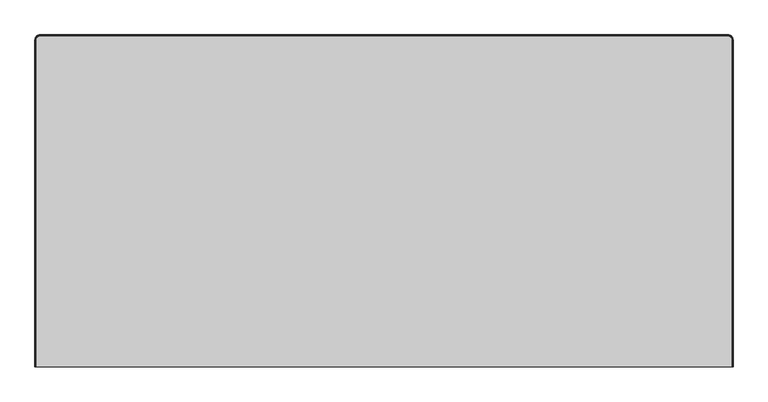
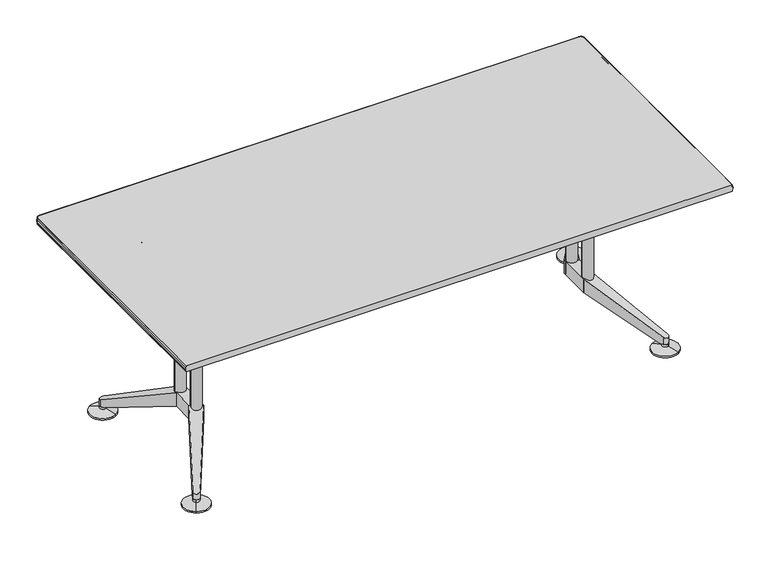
"""IFC4 building model written with IfcOpenShell, lengths in millimetres: furniture geometry, Furniture_Wilkhahn_620-24_Logon Table-Rectangle : Logon 620/23_2100L x 2000W x 730H."""

from ifc_helpers import new_model, si_unit, point, frame, frame_2d, origin, place, context, project, spatial, polyline, circle_curve, ellipse_curve, trimmed, segment, composite_curve, outline, extrude, source, transform, mapped, element, save
from ifc_brep_helpers import plane_surface, cylinder_surface, revolved_surface, advanced_brep


def furniture_cdf04b7c(model_context):
    return source(origin(), model_context, "Body", "SolidModel", [
        extrude(outline(polyline([(771.6506351, 341.4511544), (771.6506351, 260.4511544), (728.3493649, 235.4511544), (728.3493649, 366.4511544), (771.6506351, 341.4511544)])), frame((0.0, 0.0, 140.0), z_axis=(0.0, 0.0, 1.0), x_axis=(1.0, 0.0, 0.0)), (0.0, 0.0, 1.0), 55.0),
        advanced_brep(
        [(728.3493649, 366.4511544, 195.0), (771.6506351, 341.4511544, 195.0), (909.8189769, 605.8365053, 56.1717347), (905.0, 622.4190296, 50.6048844), (888.2296242, 618.3011239, 56.1717347), (903.7925387, 594.3049058, 27.0), (881.2561852, 607.3162756, 27.0), (888.2296242, 618.3011239, 27.0), (905.0, 622.4190296, 27.0), (909.8189769, 605.8365053, 27.0), (771.6506351, 341.4511544, 140.0), (728.3493649, 366.4511544, 140.0)],
        [
            (0, 1),
            (1, 2),
            (2, 3, ellipse_curve(frame((898.762181, 611.6148102, 56.4159205), z_axis=(0.21111665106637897, 0.36566476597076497, 0.9064871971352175), x_axis=(0.4532435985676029, 0.7850409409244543, -0.42223330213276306)), 13.7626191, 12.475638)),
            (3, 4, ellipse_curve(frame((898.762181, 611.6148102, 56.4159205), z_axis=(0.21111665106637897, 0.36566476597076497, 0.9064871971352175), x_axis=(0.4532435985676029, 0.7850409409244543, -0.42223330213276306)), 13.7626191, 12.475638)),
            (4, 0),
            (5, 6),
            (6, 7),
            (7, 8, circle_curve(frame((898.762181, 611.6148102, 27.0), z_axis=(0.0, 0.0, -1.0), x_axis=(0.8660254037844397, -0.4999999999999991, 0.0)), 12.475638)),
            (8, 9, circle_curve(frame((898.762181, 611.6148102, 27.0), z_axis=(0.0, 0.0, -1.0), x_axis=(0.8660254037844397, -0.4999999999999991, 0.0)), 12.475638)),
            (9, 5),
            (10, 11),
            (11, 6),
            (5, 10),
            (0, 11),
            (10, 1),
            (9, 2),
            (4, 7),
        ],
        [
            plane_surface(frame((926.6506351, 609.9190296, 50.6048844), z_axis=(0.21111665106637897, 0.36566476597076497, 0.9064871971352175), x_axis=(-0.8660254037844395, 0.49999999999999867, 0.0))),
            plane_surface(frame((914.1749971, 588.3105907, 27.0), z_axis=(0.0, 0.0, -1.0), x_axis=(-0.8660254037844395, 0.49999999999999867, 0.0))),
            plane_surface(frame((771.6506351, 341.4511544, 140.0), z_axis=(-0.18426133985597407, -0.3191500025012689, -0.9296187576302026), x_axis=(-0.866025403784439, 0.4999999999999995, 0.0))),
            plane_surface(frame((771.6506351, 341.4511544, 195.0), z_axis=(-0.4999999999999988, -0.8660254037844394, 0.0), x_axis=(-0.8660254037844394, 0.4999999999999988, 0.0))),
            plane_surface(frame((909.8189769, 605.8365053, 195.0), z_axis=(0.8862709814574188, -0.4631670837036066, 0.0), x_axis=(0.0, 0.0, -1.0))),
            plane_surface(frame((728.3493649, 366.4511544, 195.0), z_axis=(-0.8442499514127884, 0.5359496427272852, 0.0), x_axis=(0.0, 0.0, -1.0))),
            cylinder_surface(frame((898.762181, 611.6148102, 0.0), z_axis=(0.0, 0.0, -1.0), x_axis=(0.8660254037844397, -0.4999999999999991, 0.0)), 12.475638),
        ],
        [
            (0, [[1, 2, 3, 4, 5]]),
            (1, [[6, 7, 8, 9, 10]]),
            (2, [[11, 12, -6, 13]]),
            (3, [[-1, 14, -11, 15]]),
            (4, [[16, -2, -15, -13, -10]]),
            (5, [[17, -7, -12, -14, -5]]),
            (6, [[-16, -9, -8, -17, -4, -3]]),
        ],
    ),
        advanced_brep(
        [(898.762181, -9.7125013, 0.0), (923.762181, -53.0137715, 0.0), (873.762181, 33.5887689, 0.0), (923.762181, -53.0137715, 6.0), (873.762181, 33.5887689, 6.0), (905.0, -20.5167207, 17.0), (892.524362, 1.0917181, 17.0), (905.0, -20.5167207, 27.0), (892.524362, 1.0917181, 27.0), (898.762181, -9.7125013, 27.0)],
        [
            (0, 1),
            (1, 2, circle_curve(frame((898.762181, -9.7125013, 0.0), z_axis=(0.0, 0.0, -1.0), x_axis=(0.49999999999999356, -0.8660254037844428, 0.0)), 50.0)),
            (2, 0),
            (2, 1, circle_curve(frame((898.762181, -9.7125013, 0.0), z_axis=(0.0, 0.0, -1.0), x_axis=(0.49999999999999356, -0.8660254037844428, 0.0)), 50.0)),
            (1, 3),
            (3, 4, circle_curve(frame((898.762181, -9.7125013, 6.0), z_axis=(0.0, 0.0, -1.0), x_axis=(0.49999999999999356, -0.8660254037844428, 0.0)), 50.0)),
            (4, 2),
            (4, 3, circle_curve(frame((898.762181, -9.7125013, 6.0), z_axis=(0.0, 0.0, -1.0), x_axis=(0.49999999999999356, -0.8660254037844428, 0.0)), 50.0)),
            (3, 5),
            (5, 6, circle_curve(frame((898.762181, -9.7125013, 17.0), z_axis=(0.0, 0.0, -1.0), x_axis=(0.49999999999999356, -0.8660254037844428, 0.0)), 12.475638)),
            (6, 4),
            (6, 5, circle_curve(frame((898.762181, -9.7125013, 17.0), z_axis=(0.0, 0.0, -1.0), x_axis=(0.49999999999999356, -0.8660254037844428, 0.0)), 12.475638)),
            (5, 7),
            (7, 8, circle_curve(frame((898.762181, -9.7125013, 27.0), z_axis=(0.0, 0.0, -1.0), x_axis=(0.49999999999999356, -0.8660254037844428, 0.0)), 12.475638)),
            (8, 6),
            (8, 7, circle_curve(frame((898.762181, -9.7125013, 27.0), z_axis=(0.0, 0.0, -1.0), x_axis=(0.49999999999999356, -0.8660254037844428, 0.0)), 12.475638)),
            (7, 9),
            (9, 8),
        ],
        [
            plane_surface(frame((898.762181, -9.7125013, 0.0), z_axis=(0.0, 0.0, -1.0), x_axis=(0.49999999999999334, -0.8660254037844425, 0.0))),
            cylinder_surface(frame((898.762181, -9.7125013, 27.0), z_axis=(0.0, 0.0, -1.0), x_axis=(0.49999999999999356, -0.8660254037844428, 0.0)), 50.0),
            revolved_surface(polyline([(905.0, -20.5167207, 17.0), (923.762181, -53.0137715, 6.0)]), (898.762181, -9.7125013, 27.0), (0.0, 0.0, -1.0)),
            cylinder_surface(frame((898.762181, -9.7125013, 27.0), z_axis=(0.0, 0.0, -1.0), x_axis=(0.49999999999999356, -0.8660254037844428, 0.0)), 12.475638),
            plane_surface(frame((898.762181, -9.7125013, 27.0), z_axis=(0.0, 0.0, 1.0), x_axis=(0.49999999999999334, -0.8660254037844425, 0.0))),
        ],
        [
            (0, [[1, 2, 3]]),
            (0, [[-3, 4, -1]]),
            (1, [[-2, 5, 6, 7]]),
            (1, [[-4, -7, 8, -5]]),
            (2, [[-6, 9, 10, 11]]),
            (2, [[-8, -11, 12, -9]]),
            (3, [[-10, 13, 14, 15]]),
            (3, [[-12, -15, 16, -13]]),
            (4, [[-14, 17, 18]]),
            (4, [[-16, -18, -17]]),
        ],
    ),
        advanced_brep(
        [(873.762181, 568.31354, 0.0), (923.762181, 654.9160804, 0.0), (898.762181, 611.6148102, 0.0), (873.762181, 568.31354, 6.0), (923.762181, 654.9160804, 6.0), (892.524362, 600.8105907, 17.0), (905.0, 622.4190296, 17.0), (892.524362, 600.8105907, 27.0), (905.0, 622.4190296, 27.0), (898.762181, 611.6148102, 27.0)],
        [
            (0, 1, circle_curve(frame((898.762181, 611.6148102, 0.0), z_axis=(0.0, 0.0, -1.0), x_axis=(0.4999999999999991, 0.8660254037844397, 0.0)), 50.0)),
            (1, 2),
            (2, 0),
            (1, 0, circle_curve(frame((898.762181, 611.6148102, 0.0), z_axis=(0.0, 0.0, -1.0), x_axis=(0.4999999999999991, 0.8660254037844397, 0.0)), 50.0)),
            (3, 4, circle_curve(frame((898.762181, 611.6148102, 6.0), z_axis=(0.0, 0.0, -1.0), x_axis=(0.4999999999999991, 0.8660254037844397, 0.0)), 50.0)),
            (4, 1),
            (0, 3),
            (4, 3, circle_curve(frame((898.762181, 611.6148102, 6.0), z_axis=(0.0, 0.0, -1.0), x_axis=(0.4999999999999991, 0.8660254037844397, 0.0)), 50.0)),
            (5, 6, circle_curve(frame((898.762181, 611.6148102, 17.0), z_axis=(0.0, 0.0, -1.0), x_axis=(0.4999999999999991, 0.8660254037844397, 0.0)), 12.475638)),
            (6, 4),
            (3, 5),
            (6, 5, circle_curve(frame((898.762181, 611.6148102, 17.0), z_axis=(0.0, 0.0, -1.0), x_axis=(0.4999999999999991, 0.8660254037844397, 0.0)), 12.475638)),
            (7, 8, circle_curve(frame((898.762181, 611.6148102, 27.0), z_axis=(0.0, 0.0, -1.0), x_axis=(0.4999999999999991, 0.8660254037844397, 0.0)), 12.475638)),
            (8, 6),
            (5, 7),
            (8, 7, circle_curve(frame((898.762181, 611.6148102, 27.0), z_axis=(0.0, 0.0, -1.0), x_axis=(0.4999999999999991, 0.8660254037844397, 0.0)), 12.475638)),
            (9, 8),
            (7, 9),
        ],
        [
            plane_surface(frame((898.762181, 611.6148102, 0.0), z_axis=(0.0, 0.0, -1.0), x_axis=(0.4999999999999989, 0.8660254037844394, 0.0))),
            cylinder_surface(frame((898.762181, 611.6148102, 27.0), z_axis=(0.0, 0.0, 1.0), x_axis=(0.4999999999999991, 0.8660254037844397, 0.0)), 50.0),
            revolved_surface(polyline([(923.762181, 654.9160804, 6.0), (905.0, 622.4190296, 17.0)]), (898.762181, 611.6148102, 27.0), (0.0, 0.0, 1.0)),
            cylinder_surface(frame((898.762181, 611.6148102, 27.0), z_axis=(0.0, 0.0, 1.0), x_axis=(0.4999999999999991, 0.8660254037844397, 0.0)), 12.475638),
            plane_surface(frame((898.762181, 611.6148102, 27.0), z_axis=(0.0, 0.0, 1.0), x_axis=(0.4999999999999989, 0.8660254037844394, 0.0))),
        ],
        [
            (0, [[1, 2, 3]]),
            (0, [[4, -3, -2]]),
            (1, [[5, 6, -1, 7]]),
            (1, [[8, -7, -4, -6]]),
            (2, [[9, 10, -5, 11]]),
            (2, [[12, -11, -8, -10]]),
            (3, [[13, 14, -9, 15]]),
            (3, [[16, -15, -12, -14]]),
            (4, [[17, -13, 18]]),
            (4, [[-18, -16, -17]]),
        ],
    ),
        extrude(outline(composite_curve([segment(polyline([(775.0, 247.9511544), (801.7160071, 84.8913867)]), True, "CONTINUOUS"), segment(trimmed(circle_curve(frame_2d((789.8739001, 82.9511544)), 12.0), [point((801.7160071, 84.8913867))], [point((789.8739001, 70.9511544))], False, "CARTESIAN"), True, "CONTINUOUS"), segment(polyline([(789.8739001, 70.9511544), (710.1260999, 70.9511544)]), True, "CONTINUOUS"), segment(trimmed(circle_curve(frame_2d((710.1260999, 82.9511544)), 12.0), [point((710.1260999, 70.9511544))], [point((698.2839929, 84.8913867))], False, "CARTESIAN"), True, "CONTINUOUS"), segment(polyline([(698.2839929, 84.8913867), (725.0, 247.9511544), (725.0, 353.9511544), (698.2839929, 517.0109222)]), True, "CONTINUOUS"), segment(trimmed(circle_curve(frame_2d((710.1260999, 518.9511544)), 12.0), [point((698.2839929, 517.0109222))], [point((710.1260999, 530.9511544))], False, "CARTESIAN"), True, "CONTINUOUS"), segment(polyline([(710.1260999, 530.9511544), (789.8739001, 530.9511544)]), True, "CONTINUOUS"), segment(trimmed(circle_curve(frame_2d((789.8739001, 518.9511544)), 12.0), [point((789.8739001, 530.9511544))], [point((801.7160071, 517.0109222))], False, "CARTESIAN"), True, "CONTINUOUS"), segment(polyline([(801.7160071, 517.0109222), (775.0, 353.9511544), (775.0, 247.9511544)]), True, "CONTINUOUS")], self_intersect=False)), frame((0.0, 0.0, 675.0), z_axis=(0.0, 0.0, 1.0), x_axis=(1.0, 0.0, 0.0)), (0.0, 0.0, 1.0), 29.0),
        advanced_brep(
        [(909.8189769, -3.9341964, 56.1717347), (909.8189769, -3.9341964, 27.0), (903.7925387, 7.597403, 27.0), (771.6506351, 260.4511544, 140.0), (771.6506351, 260.4511544, 195.0), (888.2296242, -16.398815, 27.0), (888.2296242, -16.398815, 56.1717347), (728.3493649, 235.4511544, 195.0), (728.3493649, 235.4511544, 140.0), (881.2561852, -5.4139667, 27.0), (905.0, -20.5167207, 50.6048844), (905.0, -20.5167207, 27.0)],
        [
            (0, 1),
            (1, 2),
            (2, 3),
            (3, 4),
            (4, 0),
            (5, 6),
            (6, 7),
            (7, 8),
            (8, 9),
            (9, 5),
            (4, 7),
            (6, 10, ellipse_curve(frame((898.762181, -9.7125013, 56.4159205), z_axis=(0.21111665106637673, -0.36566476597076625, 0.9064871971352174), x_axis=(0.453243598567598, -0.785040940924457, -0.4222333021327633)), 13.7626191, 12.475638)),
            (10, 0, ellipse_curve(frame((898.762181, -9.7125013, 56.4159205), z_axis=(0.21111665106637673, -0.36566476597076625, 0.9064871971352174), x_axis=(0.453243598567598, -0.785040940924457, -0.4222333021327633)), 13.7626191, 12.475638)),
            (9, 2),
            (1, 11, circle_curve(frame((898.762181, -9.7125013, 27.0), z_axis=(0.0, 0.0, -1.0), x_axis=(0.8660254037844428, 0.49999999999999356, 0.0)), 12.475638)),
            (11, 5, circle_curve(frame((898.762181, -9.7125013, 27.0), z_axis=(0.0, 0.0, -1.0), x_axis=(0.8660254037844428, 0.49999999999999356, 0.0)), 12.475638)),
            (8, 3),
        ],
        [
            plane_surface(frame((771.6506351, 260.4511544, 195.0), z_axis=(0.8862709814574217, 0.46316708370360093, 0.0), x_axis=(0.0, 0.0, -1.0))),
            plane_surface(frame((888.2296242, -16.398815, 195.0), z_axis=(-0.844249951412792, -0.5359496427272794, 0.0), x_axis=(0.0, 0.0, -1.0))),
            plane_surface(frame((771.6506351, 260.4511544, 195.0), z_axis=(0.21111665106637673, -0.36566476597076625, 0.9064871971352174), x_axis=(-0.8660254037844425, -0.49999999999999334, 0.0))),
            plane_surface(frame((926.6506351, -8.0167207, 27.0), z_axis=(0.0, 0.0, -1.0), x_axis=(-0.8660254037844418, -0.4999999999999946, 0.0))),
            plane_surface(frame((914.1749971, 13.5917181, 27.0), z_axis=(-0.1842613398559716, 0.3191500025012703, -0.9296187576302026), x_axis=(-0.8660254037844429, -0.49999999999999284, 0.0))),
            cylinder_surface(frame((898.762181, -9.7125013, 0.0), z_axis=(0.0, 0.0, -1.0), x_axis=(0.8660254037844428, 0.49999999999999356, 0.0)), 12.475638),
            plane_surface(frame((771.6506351, 260.4511544, 140.0), z_axis=(-0.4999999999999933, 0.8660254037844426, 0.0), x_axis=(-0.8660254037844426, -0.4999999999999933, 0.0))),
        ],
        [
            (0, [[1, 2, 3, 4, 5]]),
            (1, [[6, 7, 8, 9, 10]]),
            (2, [[11, -7, 12, 13, -5]]),
            (3, [[14, -2, 15, 16, -10]]),
            (4, [[17, -3, -14, -9]]),
            (5, [[-6, -16, -15, -1, -13, -12]]),
            (6, [[-11, -4, -17, -8]]),
        ],
    ),
        extrude(outline(composite_curve([segment(trimmed(circle_curve(frame_2d((750.0, 247.9511544)), 20.0), [point((730.0, 247.9511544))], [point((770.0, 247.9511544))], False, "CARTESIAN"), True, "CONTINUOUS"), segment(trimmed(circle_curve(frame_2d((750.0, 247.9511544)), 20.0), [point((770.0, 247.9511544))], [point((730.0, 247.9511544))], False, "CARTESIAN"), True, "CONTINUOUS")], self_intersect=False)), frame((0.0, 0.0, 140.0), z_axis=(0.0, 0.0, 1.0), x_axis=(1.0, 0.0, 0.0)), (0.0, 0.0, 1.0), 535.0),
        extrude(outline(composite_curve([segment(trimmed(circle_curve(frame_2d((750.0, 353.9511544)), 20.0), [point((730.0, 353.9511544))], [point((770.0, 353.9511544))], False, "CARTESIAN"), True, "CONTINUOUS"), segment(trimmed(circle_curve(frame_2d((750.0, 353.9511544)), 20.0), [point((770.0, 353.9511544))], [point((730.0, 353.9511544))], False, "CARTESIAN"), True, "CONTINUOUS")], self_intersect=False)), frame((0.0, 0.0, 140.0), z_axis=(0.0, 0.0, 1.0), x_axis=(1.0, 0.0, 0.0)), (0.0, 0.0, 1.0), 535.0),
        extrude(outline(polyline([(-771.6506351, 341.4511544), (-728.3493649, 366.4511544), (-728.3493649, 235.4511544), (-771.6506351, 260.4511544), (-771.6506351, 341.4511544)])), frame((0.0, 0.0, 140.0), z_axis=(0.0, 0.0, 1.0), x_axis=(1.0, 0.0, 0.0)), (0.0, 0.0, 1.0), 55.0),
        advanced_brep(
        [(-728.3493649, 366.4511544, 195.0), (-888.2296242, 618.3011239, 56.1717347), (-905.0, 622.4190296, 50.6048844), (-909.8189769, 605.8365053, 56.1717347), (-771.6506351, 341.4511544, 195.0), (-903.7925387, 594.3049058, 27.0), (-909.8189769, 605.8365053, 27.0), (-905.0, 622.4190296, 27.0), (-888.2296242, 618.3011239, 27.0), (-881.2561852, 607.3162756, 27.0), (-771.6506351, 341.4511544, 140.0), (-728.3493649, 366.4511544, 140.0)],
        [
            (0, 1),
            (1, 2, ellipse_curve(frame((-898.762181, 611.6148102, 56.4159205), z_axis=(-0.21111665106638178, 0.36566476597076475, 0.906487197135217), x_axis=(-0.45324359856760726, 0.7850409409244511, -0.4222333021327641)), 13.7626191, 12.475638)),
            (2, 3, ellipse_curve(frame((-898.762181, 611.6148102, 56.4159205), z_axis=(-0.21111665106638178, 0.36566476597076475, 0.906487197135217), x_axis=(-0.45324359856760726, 0.7850409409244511, -0.4222333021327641)), 13.7626191, 12.475638)),
            (3, 4),
            (4, 0),
            (5, 6),
            (6, 7, circle_curve(frame((-898.762181, 611.6148102, 27.0), z_axis=(0.0, 0.0, -1.0), x_axis=(-0.8660254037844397, -0.4999999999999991, 0.0)), 12.475638)),
            (7, 8, circle_curve(frame((-898.762181, 611.6148102, 27.0), z_axis=(0.0, 0.0, -1.0), x_axis=(-0.8660254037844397, -0.4999999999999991, 0.0)), 12.475638)),
            (8, 9),
            (9, 5),
            (10, 5),
            (9, 11),
            (11, 10),
            (4, 10),
            (11, 0),
            (3, 6),
            (8, 1),
        ],
        [
            plane_surface(frame((-926.6506351, 609.9190296, 50.6048844), z_axis=(-0.21111665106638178, 0.36566476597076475, 0.906487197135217), x_axis=(0.8660254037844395, 0.49999999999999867, 0.0))),
            plane_surface(frame((-914.1749971, 588.3105907, 27.0), z_axis=(0.0, 0.0, -1.0), x_axis=(0.8660254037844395, 0.49999999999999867, 0.0))),
            plane_surface(frame((-771.6506351, 341.4511544, 140.0), z_axis=(0.18426133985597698, -0.3191500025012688, -0.9296187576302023), x_axis=(0.866025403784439, 0.4999999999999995, 0.0))),
            plane_surface(frame((-771.6506351, 341.4511544, 195.0), z_axis=(0.4999999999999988, -0.8660254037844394, 0.0), x_axis=(0.8660254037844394, 0.4999999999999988, 0.0))),
            plane_surface(frame((-909.8189769, 605.8365053, 195.0), z_axis=(-0.8862709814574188, -0.4631670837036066, 0.0), x_axis=(0.0, 0.0, -1.0))),
            plane_surface(frame((-728.3493649, 366.4511544, 195.0), z_axis=(0.8442499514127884, 0.5359496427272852, 0.0), x_axis=(0.0, 0.0, -1.0))),
            cylinder_surface(frame((-898.762181, 611.6148102, 0.0), z_axis=(0.0, 0.0, -1.0), x_axis=(-0.8660254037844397, -0.4999999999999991, 0.0)), 12.475638),
        ],
        [
            (0, [[1, 2, 3, 4, 5]]),
            (1, [[6, 7, 8, 9, 10]]),
            (2, [[11, -10, 12, 13]]),
            (3, [[14, -13, 15, -5]]),
            (4, [[-6, -11, -14, -4, 16]]),
            (5, [[-1, -15, -12, -9, 17]]),
            (6, [[-3, -2, -17, -8, -7, -16]]),
        ],
    ),
        advanced_brep(
        [(-898.762181, -9.7125013, 0.0), (-873.762181, 33.5887689, 0.0), (-923.762181, -53.0137715, 0.0), (-873.762181, 33.5887689, 6.0), (-923.762181, -53.0137715, 6.0), (-892.524362, 1.0917181, 17.0), (-905.0, -20.5167207, 17.0), (-892.524362, 1.0917181, 27.0), (-905.0, -20.5167207, 27.0), (-898.762181, -9.7125013, 27.0)],
        [
            (0, 1),
            (1, 2, circle_curve(frame((-898.762181, -9.7125013, 0.0), z_axis=(0.0, 0.0, -1.0), x_axis=(-0.49999999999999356, -0.8660254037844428, 0.0)), 50.0)),
            (2, 0),
            (2, 1, circle_curve(frame((-898.762181, -9.7125013, 0.0), z_axis=(0.0, 0.0, -1.0), x_axis=(-0.49999999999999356, -0.8660254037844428, 0.0)), 50.0)),
            (1, 3),
            (3, 4, circle_curve(frame((-898.762181, -9.7125013, 6.0), z_axis=(0.0, 0.0, -1.0), x_axis=(-0.49999999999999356, -0.8660254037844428, 0.0)), 50.0)),
            (4, 2),
            (4, 3, circle_curve(frame((-898.762181, -9.7125013, 6.0), z_axis=(0.0, 0.0, -1.0), x_axis=(-0.49999999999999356, -0.8660254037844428, 0.0)), 50.0)),
            (3, 5),
            (5, 6, circle_curve(frame((-898.762181, -9.7125013, 17.0), z_axis=(0.0, 0.0, -1.0), x_axis=(-0.49999999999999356, -0.8660254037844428, 0.0)), 12.475638)),
            (6, 4),
            (6, 5, circle_curve(frame((-898.762181, -9.7125013, 17.0), z_axis=(0.0, 0.0, -1.0), x_axis=(-0.49999999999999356, -0.8660254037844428, 0.0)), 12.475638)),
            (5, 7),
            (7, 8, circle_curve(frame((-898.762181, -9.7125013, 27.0), z_axis=(0.0, 0.0, -1.0), x_axis=(-0.49999999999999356, -0.8660254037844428, 0.0)), 12.475638)),
            (8, 6),
            (8, 7, circle_curve(frame((-898.762181, -9.7125013, 27.0), z_axis=(0.0, 0.0, -1.0), x_axis=(-0.49999999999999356, -0.8660254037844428, 0.0)), 12.475638)),
            (7, 9),
            (9, 8),
        ],
        [
            plane_surface(frame((-898.762181, -9.7125013, 0.0), z_axis=(0.0, 0.0, -1.0), x_axis=(-0.49999999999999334, -0.8660254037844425, 0.0))),
            cylinder_surface(frame((-898.762181, -9.7125013, 27.0), z_axis=(0.0, 0.0, -1.0), x_axis=(-0.49999999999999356, -0.8660254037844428, 0.0)), 50.0),
            revolved_surface(polyline([(-905.0, -20.5167207, 17.0), (-923.762181, -53.0137715, 6.0)]), (-898.762181, -9.7125013, 27.0), (0.0, 0.0, -1.0)),
            cylinder_surface(frame((-898.762181, -9.7125013, 27.0), z_axis=(0.0, 0.0, -1.0), x_axis=(-0.49999999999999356, -0.8660254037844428, 0.0)), 12.475638),
            plane_surface(frame((-898.762181, -9.7125013, 27.0), z_axis=(0.0, 0.0, 1.0), x_axis=(-0.49999999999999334, -0.8660254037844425, 0.0))),
        ],
        [
            (0, [[1, 2, 3]]),
            (0, [[-3, 4, -1]]),
            (1, [[5, 6, 7, -2]]),
            (1, [[-7, 8, -5, -4]]),
            (2, [[9, 10, 11, -6]]),
            (2, [[-11, 12, -9, -8]]),
            (3, [[13, 14, 15, -10]]),
            (3, [[-15, 16, -13, -12]]),
            (4, [[17, 18, -14]]),
            (4, [[-18, -17, -16]]),
        ],
    ),
        advanced_brep(
        [(-873.762181, 568.31354, 0.0), (-898.762181, 611.6148102, 0.0), (-923.762181, 654.9160804, 0.0), (-873.762181, 568.31354, 6.0), (-923.762181, 654.9160804, 6.0), (-892.524362, 600.8105907, 17.0), (-905.0, 622.4190296, 17.0), (-892.524362, 600.8105907, 27.0), (-905.0, 622.4190296, 27.0), (-898.762181, 611.6148102, 27.0)],
        [
            (0, 1),
            (1, 2),
            (2, 0, circle_curve(frame((-898.762181, 611.6148102, 0.0), z_axis=(0.0, 0.0, -1.0), x_axis=(-0.4999999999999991, 0.8660254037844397, 0.0)), 50.0)),
            (0, 2, circle_curve(frame((-898.762181, 611.6148102, 0.0), z_axis=(0.0, 0.0, -1.0), x_axis=(-0.4999999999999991, 0.8660254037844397, 0.0)), 50.0)),
            (3, 0),
            (2, 4),
            (4, 3, circle_curve(frame((-898.762181, 611.6148102, 6.0), z_axis=(0.0, 0.0, -1.0), x_axis=(-0.4999999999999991, 0.8660254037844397, 0.0)), 50.0)),
            (3, 4, circle_curve(frame((-898.762181, 611.6148102, 6.0), z_axis=(0.0, 0.0, -1.0), x_axis=(-0.4999999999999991, 0.8660254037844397, 0.0)), 50.0)),
            (5, 3),
            (4, 6),
            (6, 5, circle_curve(frame((-898.762181, 611.6148102, 17.0), z_axis=(0.0, 0.0, -1.0), x_axis=(-0.4999999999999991, 0.8660254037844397, 0.0)), 12.475638)),
            (5, 6, circle_curve(frame((-898.762181, 611.6148102, 17.0), z_axis=(0.0, 0.0, -1.0), x_axis=(-0.4999999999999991, 0.8660254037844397, 0.0)), 12.475638)),
            (7, 5),
            (6, 8),
            (8, 7, circle_curve(frame((-898.762181, 611.6148102, 27.0), z_axis=(0.0, 0.0, -1.0), x_axis=(-0.4999999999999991, 0.8660254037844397, 0.0)), 12.475638)),
            (7, 8, circle_curve(frame((-898.762181, 611.6148102, 27.0), z_axis=(0.0, 0.0, -1.0), x_axis=(-0.4999999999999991, 0.8660254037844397, 0.0)), 12.475638)),
            (9, 7),
            (8, 9),
        ],
        [
            plane_surface(frame((-898.762181, 611.6148102, 0.0), z_axis=(0.0, 0.0, -1.0), x_axis=(-0.4999999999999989, 0.8660254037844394, 0.0))),
            cylinder_surface(frame((-898.762181, 611.6148102, 27.0), z_axis=(0.0, 0.0, 1.0), x_axis=(-0.4999999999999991, 0.8660254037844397, 0.0)), 50.0),
            revolved_surface(polyline([(-923.762181, 654.9160804, 6.0), (-905.0, 622.4190296, 17.0)]), (-898.762181, 611.6148102, 27.0), (0.0, 0.0, 1.0)),
            cylinder_surface(frame((-898.762181, 611.6148102, 27.0), z_axis=(0.0, 0.0, 1.0), x_axis=(-0.4999999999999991, 0.8660254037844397, 0.0)), 12.475638),
            plane_surface(frame((-898.762181, 611.6148102, 27.0), z_axis=(0.0, 0.0, 1.0), x_axis=(-0.4999999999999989, 0.8660254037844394, 0.0))),
        ],
        [
            (0, [[1, 2, 3]]),
            (0, [[-2, -1, 4]]),
            (1, [[5, -3, 6, 7]]),
            (1, [[-6, -4, -5, 8]]),
            (2, [[9, -7, 10, 11]]),
            (2, [[-10, -8, -9, 12]]),
            (3, [[13, -11, 14, 15]]),
            (3, [[-14, -12, -13, 16]]),
            (4, [[17, -15, 18]]),
            (4, [[-18, -16, -17]]),
        ],
    ),
        extrude(outline(composite_curve([segment(polyline([(-775.0, 247.9511544), (-775.0, 353.9511544), (-801.7160071, 517.0109222)]), True, "CONTINUOUS"), segment(trimmed(circle_curve(frame_2d((-789.8739001, 518.9511544)), 12.0), [point((-801.7160071, 517.0109222))], [point((-789.8739001, 530.9511544))], False, "CARTESIAN"), True, "CONTINUOUS"), segment(polyline([(-789.8739001, 530.9511544), (-710.1260999, 530.9511544)]), True, "CONTINUOUS"), segment(trimmed(circle_curve(frame_2d((-710.1260999, 518.9511544)), 12.0), [point((-710.1260999, 530.9511544))], [point((-698.2839929, 517.0109222))], False, "CARTESIAN"), True, "CONTINUOUS"), segment(polyline([(-698.2839929, 517.0109222), (-725.0, 353.9511544), (-725.0, 247.9511544), (-698.2839929, 84.8913867)]), True, "CONTINUOUS"), segment(trimmed(circle_curve(frame_2d((-710.1260999, 82.9511544)), 12.0), [point((-698.2839929, 84.8913867))], [point((-710.1260999, 70.9511544))], False, "CARTESIAN"), True, "CONTINUOUS"), segment(polyline([(-710.1260999, 70.9511544), (-789.8739001, 70.9511544)]), True, "CONTINUOUS"), segment(trimmed(circle_curve(frame_2d((-789.8739001, 82.9511544)), 12.0), [point((-789.8739001, 70.9511544))], [point((-801.7160071, 84.8913867))], False, "CARTESIAN"), True, "CONTINUOUS"), segment(polyline([(-801.7160071, 84.8913867), (-775.0, 247.9511544)]), True, "CONTINUOUS")], self_intersect=False)), frame((0.0, 0.0, 675.0), z_axis=(0.0, 0.0, 1.0), x_axis=(1.0, 0.0, 0.0)), (0.0, 0.0, 1.0), 29.0),
        advanced_brep(
        [(-909.8189769, -3.9341964, 56.1717347), (-771.6506351, 260.4511544, 195.0), (-771.6506351, 260.4511544, 140.0), (-903.7925387, 7.597403, 27.0), (-909.8189769, -3.9341964, 27.0), (-888.2296242, -16.398815, 27.0), (-881.2561852, -5.4139667, 27.0), (-728.3493649, 235.4511544, 140.0), (-728.3493649, 235.4511544, 195.0), (-888.2296242, -16.398815, 56.1717347), (-905.0, -20.5167207, 50.6048844), (-905.0, -20.5167207, 27.0)],
        [
            (0, 1),
            (1, 2),
            (2, 3),
            (3, 4),
            (4, 0),
            (5, 6),
            (6, 7),
            (7, 8),
            (8, 9),
            (9, 5),
            (0, 10, ellipse_curve(frame((-898.762181, -9.7125013, 56.4159205), z_axis=(-0.2111166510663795, -0.36566476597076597, 0.9064871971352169), x_axis=(-0.4532435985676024, -0.7850409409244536, -0.4222333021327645)), 13.7626191, 12.475638)),
            (10, 9, ellipse_curve(frame((-898.762181, -9.7125013, 56.4159205), z_axis=(-0.2111166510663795, -0.36566476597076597, 0.9064871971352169), x_axis=(-0.4532435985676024, -0.7850409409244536, -0.4222333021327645)), 13.7626191, 12.475638)),
            (8, 1),
            (5, 11, circle_curve(frame((-898.762181, -9.7125013, 27.0), z_axis=(0.0, 0.0, -1.0), x_axis=(-0.8660254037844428, 0.49999999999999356, 0.0)), 12.475638)),
            (11, 4, circle_curve(frame((-898.762181, -9.7125013, 27.0), z_axis=(0.0, 0.0, -1.0), x_axis=(-0.8660254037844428, 0.49999999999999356, 0.0)), 12.475638)),
            (3, 6),
            (2, 7),
        ],
        [
            plane_surface(frame((-771.6506351, 260.4511544, 195.0), z_axis=(-0.8862709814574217, 0.46316708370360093, 0.0), x_axis=(0.0, 0.0, -1.0))),
            plane_surface(frame((-888.2296242, -16.398815, 195.0), z_axis=(0.844249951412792, -0.5359496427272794, 0.0), x_axis=(0.0, 0.0, -1.0))),
            plane_surface(frame((-771.6506351, 260.4511544, 195.0), z_axis=(-0.2111166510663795, -0.36566476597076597, 0.9064871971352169), x_axis=(0.8660254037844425, -0.49999999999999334, 0.0))),
            plane_surface(frame((-926.6506351, -8.0167207, 27.0), z_axis=(0.0, 0.0, -1.0), x_axis=(0.8660254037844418, -0.4999999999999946, 0.0))),
            plane_surface(frame((-914.1749971, 13.5917181, 27.0), z_axis=(0.18426133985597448, 0.3191500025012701, -0.9296187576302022), x_axis=(0.8660254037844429, -0.49999999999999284, 0.0))),
            cylinder_surface(frame((-898.762181, -9.7125013, 0.0), z_axis=(0.0, 0.0, -1.0), x_axis=(-0.8660254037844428, 0.49999999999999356, 0.0)), 12.475638),
            plane_surface(frame((-771.6506351, 260.4511544, 140.0), z_axis=(0.4999999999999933, 0.8660254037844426, 0.0), x_axis=(0.8660254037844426, -0.4999999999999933, 0.0))),
        ],
        [
            (0, [[1, 2, 3, 4, 5]]),
            (1, [[6, 7, 8, 9, 10]]),
            (2, [[-1, 11, 12, -9, 13]]),
            (3, [[-6, 14, 15, -4, 16]]),
            (4, [[-7, -16, -3, 17]]),
            (5, [[-12, -11, -5, -15, -14, -10]]),
            (6, [[-8, -17, -2, -13]]),
        ],
    ),
        extrude(outline(composite_curve([segment(trimmed(circle_curve(frame_2d((-750.0, 247.9511544)), 20.0), [point((-730.0, 247.9511544))], [point((-770.0, 247.9511544))], False, "CARTESIAN"), True, "CONTINUOUS"), segment(trimmed(circle_curve(frame_2d((-750.0, 247.9511544)), 20.0), [point((-770.0, 247.9511544))], [point((-730.0, 247.9511544))], False, "CARTESIAN"), True, "CONTINUOUS")], self_intersect=False)), frame((0.0, 0.0, 140.0), z_axis=(0.0, 0.0, 1.0), x_axis=(1.0, 0.0, 0.0)), (0.0, 0.0, 1.0), 535.0),
        extrude(outline(composite_curve([segment(trimmed(circle_curve(frame_2d((-750.0, 353.9511544)), 20.0), [point((-730.0, 353.9511544))], [point((-770.0, 353.9511544))], False, "CARTESIAN"), True, "CONTINUOUS"), segment(trimmed(circle_curve(frame_2d((-750.0, 353.9511544)), 20.0), [point((-770.0, 353.9511544))], [point((-730.0, 353.9511544))], False, "CARTESIAN"), True, "CONTINUOUS")], self_intersect=False)), frame((0.0, 0.0, 140.0), z_axis=(0.0, 0.0, 1.0), x_axis=(1.0, 0.0, 0.0)), (0.0, 0.0, 1.0), 535.0),
        advanced_brep(
        [(1046.2200262, -199.0488456, 730.0), (1046.2200262, 785.9511544, 730.0), (1035.0, 797.1711806, 730.0), (-1035.0, 797.1711806, 730.0), (-1046.2200262, 785.9511544, 730.0), (-1046.2200262, -199.0488456, 730.0), (-1046.2200262, -199.0488456, 703.9999792), (-1046.2200262, 785.9511544, 703.9999792), (-1035.0, 797.1711806, 703.9999792), (1035.0, 797.1711806, 703.9999792), (1046.2200262, 785.9511544, 703.9999792), (1046.2200262, -199.0488456, 703.9999792), (-1047.703249, -199.0488456, 728.7237185), (-1048.5013551, -199.0488456, 720.5693751), (-1048.5013551, -199.0488456, 713.4306041), (-1047.703249, -199.0488456, 705.2762608), (1047.703249, -199.0488456, 705.2762608), (1048.5013551, -199.0488456, 713.4306041), (1048.5013551, -199.0488456, 720.5693751), (1047.703249, -199.0488456, 728.7237185), (1048.5013551, 785.9511544, 713.4306041), (1035.0, 799.4525095, 713.4306041), (1035.0, 799.4525095, 720.5693751), (1048.5013551, 785.9511544, 720.5693751), (-1048.5013551, 785.9511544, 720.5693751), (-1048.5013551, 785.9511544, 713.4306041), (-1035.0, 799.4525095, 720.5693751), (-1035.0, 799.4525095, 713.4306041), (1035.0, 798.6544035, 705.2762608), (1047.703249, 785.9511544, 705.2762608), (1035.0, 798.6544035, 728.7237185), (1047.703249, 785.9511544, 728.7237185), (-1047.703249, 785.9511544, 705.2762608), (-1047.703249, 785.9511544, 728.7237185), (-1035.0, 798.6544035, 705.2762608), (-1035.0, 798.6544035, 728.7237185)],
        [
            (0, 1),
            (1, 2, circle_curve(frame((1035.0, 785.9511544, 730.0), z_axis=(0.0, 0.0, 1.0), x_axis=(0.0, 1.0000000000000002, 0.0)), 11.2200262)),
            (2, 3),
            (3, 4, circle_curve(frame((-1035.0, 785.9511544, 730.0), z_axis=(0.0, 0.0, 1.0), x_axis=(-1.0000000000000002, 0.0, 0.0)), 11.2200262)),
            (4, 5),
            (5, 0),
            (6, 7),
            (7, 8, circle_curve(frame((-1035.0, 785.9511544, 703.9999792), z_axis=(0.0, 0.0, -1.0), x_axis=(-1.0000000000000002, 0.0, 0.0)), 11.2200262)),
            (8, 9),
            (9, 10, circle_curve(frame((1035.0, 785.9511544, 703.9999792), z_axis=(0.0, 0.0, -1.0), x_axis=(0.0, 1.0000000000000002, 0.0)), 11.2200262)),
            (10, 11),
            (11, 6),
            (5, 12, circle_curve(frame((-1046.2200262, -199.0488456, 728.5), z_axis=(0.0, -1.0, 0.0), x_axis=(-1.0000000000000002, 0.0, 0.0)), 1.5)),
            (12, 13, circle_curve(frame((-969.9765254, -199.0488456, 716.9999896), z_axis=(0.0, -1.0, 0.0), x_axis=(-1.0000000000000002, 0.0, 0.0)), 78.6059119)),
            (13, 14, circle_curve(frame((-1045.0, -199.0488456, 716.9999896), z_axis=(0.0, -1.0, 0.0), x_axis=(-1.0000000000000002, 0.0, 0.0)), 5.0)),
            (14, 15, circle_curve(frame((-969.9765254, -199.0488456, 716.9999896), z_axis=(0.0, -1.0, 0.0), x_axis=(-1.0000000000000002, 0.0, 0.0)), 78.6059119)),
            (15, 6, circle_curve(frame((-1046.2200262, -199.0488456, 705.4999792), z_axis=(0.0, -1.0, 0.0), x_axis=(-1.0000000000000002, 0.0, 0.0)), 1.5)),
            (11, 16, circle_curve(frame((1046.2200262, -199.0488456, 705.4999792), z_axis=(0.0, -1.0, 0.0), x_axis=(1.0000000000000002, 0.0, 0.0)), 1.5)),
            (16, 17, circle_curve(frame((969.9765254, -199.0488456, 716.9999896), z_axis=(0.0, -1.0, 0.0), x_axis=(1.0000000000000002, 0.0, 0.0)), 78.6059119)),
            (17, 18, circle_curve(frame((1045.0, -199.0488456, 716.9999896), z_axis=(0.0, -1.0, 0.0), x_axis=(1.0000000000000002, 0.0, 0.0)), 5.0)),
            (18, 19, circle_curve(frame((969.9765254, -199.0488456, 716.9999896), z_axis=(0.0, -1.0, 0.0), x_axis=(1.0000000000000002, 0.0, 0.0)), 78.6059119)),
            (19, 0, circle_curve(frame((1046.2200262, -199.0488456, 728.5), z_axis=(0.0, -1.0, 0.0), x_axis=(1.0000000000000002, 0.0, 0.0)), 1.5)),
            (20, 21, circle_curve(frame((1035.0, 785.9511544, 713.4306041), z_axis=(0.0, 0.0, 1.0), x_axis=(0.0, 1.0000000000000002, 0.0)), 13.5013551)),
            (21, 22, circle_curve(frame((1035.0, 795.9511544, 716.9999896), z_axis=(1.0000000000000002, 0.0, 0.0), x_axis=(0.0, 1.0000000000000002, 0.0)), 5.0)),
            (22, 23, circle_curve(frame((1035.0, 785.9511544, 720.5693751), z_axis=(0.0, 0.0, -1.0), x_axis=(0.0, 1.0000000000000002, 0.0)), 13.5013551)),
            (23, 20, circle_curve(frame((1045.0, 785.9511544, 716.9999896), z_axis=(0.0, 1.0000000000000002, 0.0), x_axis=(1.0000000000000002, 0.0, 0.0)), 5.0)),
            (17, 20),
            (23, 18),
            (13, 24),
            (24, 25, circle_curve(frame((-1045.0, 785.9511544, 716.9999896), z_axis=(0.0, -1.0, 0.0), x_axis=(-1.0000000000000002, 0.0, 0.0)), 5.0)),
            (25, 14),
            (24, 26, circle_curve(frame((-1035.0, 785.9511544, 720.5693751), z_axis=(0.0, 0.0, -1.0), x_axis=(-1.0000000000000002, 0.0, 0.0)), 13.5013551)),
            (26, 27, circle_curve(frame((-1035.0, 795.9511544, 716.9999896), z_axis=(-1.0000000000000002, 0.0, 0.0), x_axis=(0.0, 1.0000000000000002, 0.0)), 5.0)),
            (27, 25, circle_curve(frame((-1035.0, 785.9511544, 713.4306041), z_axis=(0.0, 0.0, 1.0), x_axis=(-1.0000000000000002, 0.0, 0.0)), 13.5013551)),
            (21, 27),
            (26, 22),
            (9, 28, circle_curve(frame((1035.0, 797.1711806, 705.4999792), z_axis=(1.0000000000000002, 0.0, 0.0), x_axis=(0.0, 1.0000000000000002, 0.0)), 1.5)),
            (28, 29, circle_curve(frame((1035.0, 785.9511544, 705.2762608), z_axis=(0.0, 0.0, -1.0), x_axis=(0.0, 1.0000000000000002, 0.0)), 12.703249)),
            (29, 10, circle_curve(frame((1046.2200262, 785.9511544, 705.4999792), z_axis=(0.0, 1.0000000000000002, 0.0), x_axis=(1.0000000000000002, 0.0, 0.0)), 1.5)),
            (20, 29, circle_curve(frame((969.9765254, 785.9511544, 716.9999896), z_axis=(0.0, 1.0000000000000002, 0.0), x_axis=(1.0000000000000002, 0.0, 0.0)), 78.6059119)),
            (28, 21, circle_curve(frame((1035.0, 720.9276799, 716.9999896), z_axis=(1.0000000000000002, 0.0, 0.0), x_axis=(0.0, 1.0000000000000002, 0.0)), 78.6059119)),
            (22, 30, circle_curve(frame((1035.0, 720.9276799, 716.9999896), z_axis=(1.0000000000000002, 0.0, 0.0), x_axis=(0.0, 1.0000000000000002, 0.0)), 78.6059119)),
            (30, 31, circle_curve(frame((1035.0, 785.9511544, 728.7237185), z_axis=(0.0, 0.0, -1.0), x_axis=(0.0, 1.0000000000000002, 0.0)), 12.703249)),
            (31, 23, circle_curve(frame((969.9765254, 785.9511544, 716.9999896), z_axis=(0.0, 1.0000000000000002, 0.0), x_axis=(1.0000000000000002, 0.0, 0.0)), 78.6059119)),
            (1, 31, circle_curve(frame((1046.2200262, 785.9511544, 728.5), z_axis=(0.0, 1.0000000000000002, 0.0), x_axis=(1.0000000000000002, 0.0, 0.0)), 1.5)),
            (30, 2, circle_curve(frame((1035.0, 797.1711806, 728.5), z_axis=(1.0000000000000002, 0.0, 0.0), x_axis=(0.0, 1.0000000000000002, 0.0)), 1.5)),
            (29, 16),
            (31, 19),
            (15, 32),
            (32, 7, circle_curve(frame((-1046.2200262, 785.9511544, 705.4999792), z_axis=(0.0, -1.0, 0.0), x_axis=(-1.0000000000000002, 0.0, 0.0)), 1.5)),
            (25, 32, circle_curve(frame((-969.9765254, 785.9511544, 716.9999896), z_axis=(0.0, -1.0, 0.0), x_axis=(-1.0000000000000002, 0.0, 0.0)), 78.6059119)),
            (12, 33),
            (33, 24, circle_curve(frame((-969.9765254, 785.9511544, 716.9999896), z_axis=(0.0, -1.0, 0.0), x_axis=(-1.0000000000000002, 0.0, 0.0)), 78.6059119)),
            (4, 33, circle_curve(frame((-1046.2200262, 785.9511544, 728.5), z_axis=(0.0, -1.0, 0.0), x_axis=(-1.0000000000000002, 0.0, 0.0)), 1.5)),
            (32, 34, circle_curve(frame((-1035.0, 785.9511544, 705.2762608), z_axis=(0.0, 0.0, -1.0), x_axis=(-1.0000000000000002, 0.0, 0.0)), 12.703249)),
            (34, 8, circle_curve(frame((-1035.0, 797.1711806, 705.4999792), z_axis=(-1.0000000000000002, 0.0, 0.0), x_axis=(0.0, 1.0000000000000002, 0.0)), 1.5)),
            (27, 34, circle_curve(frame((-1035.0, 720.9276799, 716.9999896), z_axis=(-1.0000000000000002, 0.0, 0.0), x_axis=(0.0, 1.0000000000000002, 0.0)), 78.6059119)),
            (33, 35, circle_curve(frame((-1035.0, 785.9511544, 728.7237185), z_axis=(0.0, 0.0, -1.0), x_axis=(-1.0000000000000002, 0.0, 0.0)), 12.703249)),
            (35, 26, circle_curve(frame((-1035.0, 720.9276799, 716.9999896), z_axis=(-1.0000000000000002, 0.0, 0.0), x_axis=(0.0, 1.0000000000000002, 0.0)), 78.6059119)),
            (3, 35, circle_curve(frame((-1035.0, 797.1711806, 728.5), z_axis=(-1.0000000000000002, 0.0, 0.0), x_axis=(0.0, 1.0000000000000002, 0.0)), 1.5)),
            (34, 28),
            (35, 30),
        ],
        [
            plane_surface(frame((-1035.0, 775.9511544, 730.0), z_axis=(0.0, 0.0, 1.0), x_axis=(1.0, 0.0, 0.0))),
            plane_surface(frame((-1035.0, 775.9511544, 703.9999792), z_axis=(0.0, 0.0, -1.0), x_axis=(-1.0, 0.0, 0.0))),
            plane_surface(frame((-1045.0, -199.0488456, 730.0), z_axis=(0.0, -1.0, 0.0), x_axis=(0.0, 0.0, -1.0))),
            revolved_surface(trimmed(ellipse_curve(frame((1035.0, 795.9511544, 716.9999896), z_axis=(-1.0000000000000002, 0.0, 0.0), x_axis=(0.0, 1.0000000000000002, 0.0)), 5.0, 5.0), [point((1035.0, 799.4525095, 720.5693751))], [point((1035.0, 799.4525095, 713.4306041))], True, "CARTESIAN"), (1035.0, 785.9511544, 730.0), (0.0, 0.0, -1.0)),
            cylinder_surface(frame((1045.0, 785.9511544, 716.9999896), z_axis=(0.0, 1.0000000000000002, 0.0), x_axis=(1.0000000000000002, 0.0, 0.0)), 5.0),
            cylinder_surface(frame((-1045.0, -199.0488456, 716.9999896), z_axis=(0.0, -1.0000000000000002, 0.0), x_axis=(-1.0000000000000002, 0.0, 0.0)), 5.0),
            revolved_surface(trimmed(ellipse_curve(frame((-1045.0, 785.9511544, 716.9999896), z_axis=(0.0, -1.0000000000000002, 0.0), x_axis=(-1.0000000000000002, 0.0, 0.0)), 5.0, 5.0), [point((-1048.5013551, 785.9511544, 720.5693751))], [point((-1048.5013551, 785.9511544, 713.4306041))], True, "CARTESIAN"), (-1035.0, 785.9511544, 730.0), (0.0, 0.0, -1.0)),
            cylinder_surface(frame((-1035.0, 795.9511544, 716.9999896), z_axis=(-1.0000000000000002, 0.0, 0.0), x_axis=(0.0, 1.0000000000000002, 0.0)), 5.0),
            revolved_surface(trimmed(ellipse_curve(frame((1035.0, 797.1711806, 705.4999792), z_axis=(-1.0000000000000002, 0.0, 0.0), x_axis=(0.0, 1.0000000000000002, 0.0)), 1.5, 1.5), [point((1035.0, 798.6544035, 705.2762608))], [point((1035.0, 797.1711806, 703.9999792))], True, "CARTESIAN"), (1035.0, 785.9511544, 730.0), (0.0, 0.0, -1.0)),
            revolved_surface(trimmed(ellipse_curve(frame((1035.0, 720.9276799, 716.9999896), z_axis=(-1.0000000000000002, 0.0, 0.0), x_axis=(0.0, 1.0000000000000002, 0.0)), 78.6059119, 78.6059119), [point((1035.0, 799.4525095, 713.4306041))], [point((1035.0, 798.6544035, 705.2762608))], True, "CARTESIAN"), (1035.0, 785.9511544, 730.0), (0.0, 0.0, -1.0)),
            revolved_surface(trimmed(ellipse_curve(frame((1035.0, 720.9276799, 716.9999896), z_axis=(-1.0000000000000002, 0.0, 0.0), x_axis=(0.0, 1.0000000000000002, 0.0)), 78.6059119, 78.6059119), [point((1035.0, 798.6544035, 728.7237185))], [point((1035.0, 799.4525095, 720.5693751))], True, "CARTESIAN"), (1035.0, 785.9511544, 730.0), (0.0, 0.0, -1.0)),
            revolved_surface(trimmed(ellipse_curve(frame((1035.0, 797.1711806, 728.5), z_axis=(-1.0000000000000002, 0.0, 0.0), x_axis=(0.0, 1.0000000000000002, 0.0)), 1.5, 1.5), [point((1035.0, 797.1711806, 730.0))], [point((1035.0, 798.6544035, 728.7237185))], True, "CARTESIAN"), (1035.0, 785.9511544, 730.0), (0.0, 0.0, -1.0)),
            cylinder_surface(frame((1046.2200262, 785.9511544, 705.4999792), z_axis=(0.0, 1.0000000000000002, 0.0), x_axis=(1.0000000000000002, 0.0, 0.0)), 1.5),
            cylinder_surface(frame((969.9765254, 785.9511544, 716.9999896), z_axis=(0.0, 1.0000000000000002, 0.0), x_axis=(1.0000000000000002, 0.0, 0.0)), 78.6059119),
            cylinder_surface(frame((1046.2200262, 785.9511544, 728.5), z_axis=(0.0, 1.0000000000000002, 0.0), x_axis=(1.0000000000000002, 0.0, 0.0)), 1.5),
            cylinder_surface(frame((-1046.2200262, -199.0488456, 705.4999792), z_axis=(0.0, -1.0000000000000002, 0.0), x_axis=(-1.0000000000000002, 0.0, 0.0)), 1.5),
            cylinder_surface(frame((-969.9765254, -199.0488456, 716.9999896), z_axis=(0.0, -1.0000000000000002, 0.0), x_axis=(-1.0000000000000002, 0.0, 0.0)), 78.6059119),
            cylinder_surface(frame((-1046.2200262, -199.0488456, 728.5), z_axis=(0.0, -1.0000000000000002, 0.0), x_axis=(-1.0000000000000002, 0.0, 0.0)), 1.5),
            revolved_surface(trimmed(ellipse_curve(frame((-1046.2200262, 785.9511544, 705.4999792), z_axis=(0.0, -1.0000000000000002, 0.0), x_axis=(-1.0000000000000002, 0.0, 0.0)), 1.5, 1.5), [point((-1047.703249, 785.9511544, 705.2762608))], [point((-1046.2200262, 785.9511544, 703.9999792))], True, "CARTESIAN"), (-1035.0, 785.9511544, 730.0), (0.0, 0.0, -1.0)),
            revolved_surface(trimmed(ellipse_curve(frame((-969.9765254, 785.9511544, 716.9999896), z_axis=(0.0, -1.0000000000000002, 0.0), x_axis=(-1.0000000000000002, 0.0, 0.0)), 78.6059119, 78.6059119), [point((-1048.5013551, 785.9511544, 713.4306041))], [point((-1047.703249, 785.9511544, 705.2762608))], True, "CARTESIAN"), (-1035.0, 785.9511544, 730.0), (0.0, 0.0, -1.0)),
            revolved_surface(trimmed(ellipse_curve(frame((-969.9765254, 785.9511544, 716.9999896), z_axis=(0.0, -1.0000000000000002, 0.0), x_axis=(-1.0000000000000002, 0.0, 0.0)), 78.6059119, 78.6059119), [point((-1047.703249, 785.9511544, 728.7237185))], [point((-1048.5013551, 785.9511544, 720.5693751))], True, "CARTESIAN"), (-1035.0, 785.9511544, 730.0), (0.0, 0.0, -1.0)),
            revolved_surface(trimmed(ellipse_curve(frame((-1046.2200262, 785.9511544, 728.5), z_axis=(0.0, -1.0000000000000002, 0.0), x_axis=(-1.0000000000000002, 0.0, 0.0)), 1.5, 1.5), [point((-1046.2200262, 785.9511544, 730.0))], [point((-1047.703249, 785.9511544, 728.7237185))], True, "CARTESIAN"), (-1035.0, 785.9511544, 730.0), (0.0, 0.0, -1.0)),
            cylinder_surface(frame((-1035.0, 797.1711806, 705.4999792), z_axis=(-1.0000000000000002, 0.0, 0.0), x_axis=(0.0, 1.0000000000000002, 0.0)), 1.5),
            cylinder_surface(frame((-1035.0, 720.9276799, 716.9999896), z_axis=(-1.0000000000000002, 0.0, 0.0), x_axis=(0.0, 1.0000000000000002, 0.0)), 78.6059119),
            cylinder_surface(frame((-1035.0, 797.1711806, 728.5), z_axis=(-1.0000000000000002, 0.0, 0.0), x_axis=(0.0, 1.0000000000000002, 0.0)), 1.5),
        ],
        [
            (0, [[1, 2, 3, 4, 5, 6]]),
            (1, [[7, 8, 9, 10, 11, 12]]),
            (2, [[-6, 13, 14, 15, 16, 17, -12, 18, 19, 20, 21, 22]]),
            (3, [[23, 24, 25, 26]]),
            (4, [[-20, 27, -26, 28]]),
            (5, [[-15, 29, 30, 31]]),
            (6, [[-30, 32, 33, 34]]),
            (7, [[-24, 35, -33, 36]]),
            (8, [[-10, 37, 38, 39]]),
            (9, [[-23, 40, -38, 41]]),
            (10, [[-25, 42, 43, 44]]),
            (11, [[-2, 45, -43, 46]]),
            (12, [[-18, -11, -39, 47]]),
            (13, [[-19, -47, -40, -27]]),
            (13, [[-21, -28, -44, 48]]),
            (14, [[-22, -48, -45, -1]]),
            (15, [[-17, 49, 50, -7]]),
            (16, [[-16, -31, 51, -49]]),
            (16, [[-14, 52, 53, -29]]),
            (17, [[-13, -5, 54, -52]]),
            (18, [[-8, -50, 55, 56]]),
            (19, [[-34, 57, -55, -51]]),
            (20, [[-32, -53, 58, 59]]),
            (21, [[-4, 60, -58, -54]]),
            (22, [[-9, -56, 61, -37]]),
            (23, [[-35, -41, -61, -57]]),
            (23, [[-36, -59, 62, -42]]),
            (24, [[-3, -46, -62, -60]]),
        ],
    ),
    ])


if __name__ == "__main__":
    model = new_model("IFC4")
    model_context = context("Model", 3, world=origin())
    ifc_project = project(units=[si_unit("LENGTHUNIT", "METRE", prefix="MILLI")], contexts=[model_context])
    site = spatial("IfcSite", under=ifc_project)
    building = spatial("IfcBuilding", under=site)
    placement = place(None, origin())
    furniture_shape = furniture_cdf04b7c(model_context)
    element("IfcFurniture", 1, ObjectType="Furniture_Wilkhahn_620-24_Logon Table-Rectangle : Logon 620/23_2100L x 2000W x 730H", at=placement, inside=building, context=model_context, shape_type="MappedRepresentation", body=[
        mapped(furniture_shape, transform((0.0, 0.0, 0.0), x_axis=(1.0, 0.0, 0.0), y_axis=(0.0, 1.0, 0.0), z_axis=(0.0, 0.0, 1.0))),
    ])
    save(model, "model.ifc")
